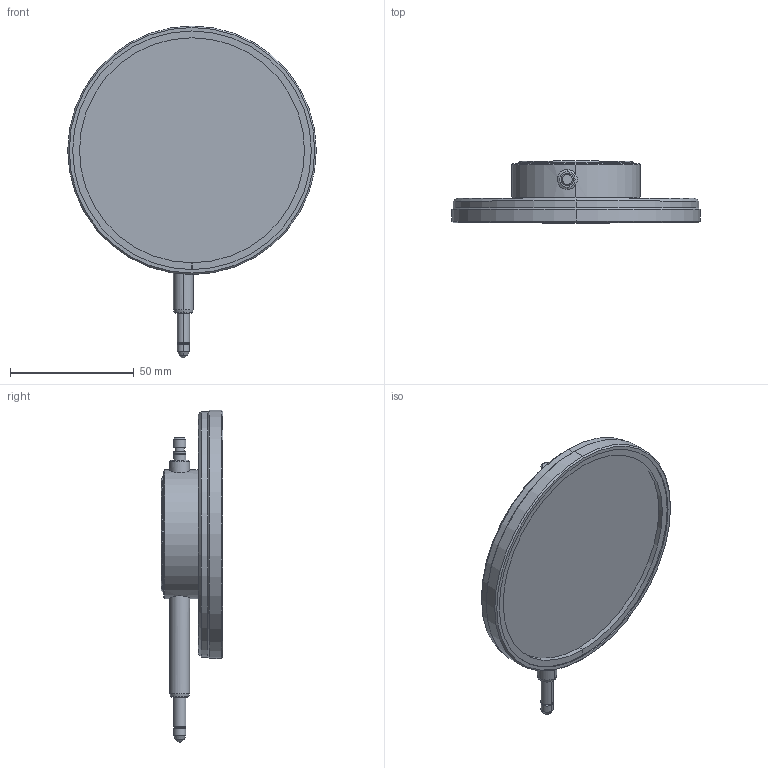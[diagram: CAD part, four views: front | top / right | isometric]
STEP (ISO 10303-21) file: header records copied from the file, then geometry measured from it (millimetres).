
FILE_DESCRIPTION(('STEP AP214'),'1');
FILE_NAME('GM10-100.STP','2016-07-14T05:43:47',(' '),(' '),'Spatial InterOp 3D',' ',' ');
FILE_SCHEMA(('automotive_design'));
Length unit declared in the file: millimetre
Products named in the file (1): GM10/100
Bounding box: 100.5 x 24.95 x 134.24 mm (x, y, z)
Volume: 95285 mm3; surface area: 23246.1 mm2
Topology: 1 solids, 4 shells, 122 faces, 268 edges, 170 vertices
Faces by surface type: cylinder 53, plane 40, cone 28, sphere 1
Entity records: 4521 total; most frequent: CARTESIAN_POINT 707, DIRECTION 648, ORIENTED_EDGE 536, EDGE_CURVE 268, AXIS2_PLACEMENT_3D 267, VERTEX_POINT 170, EDGE_LOOP 144, CIRCLE 144
